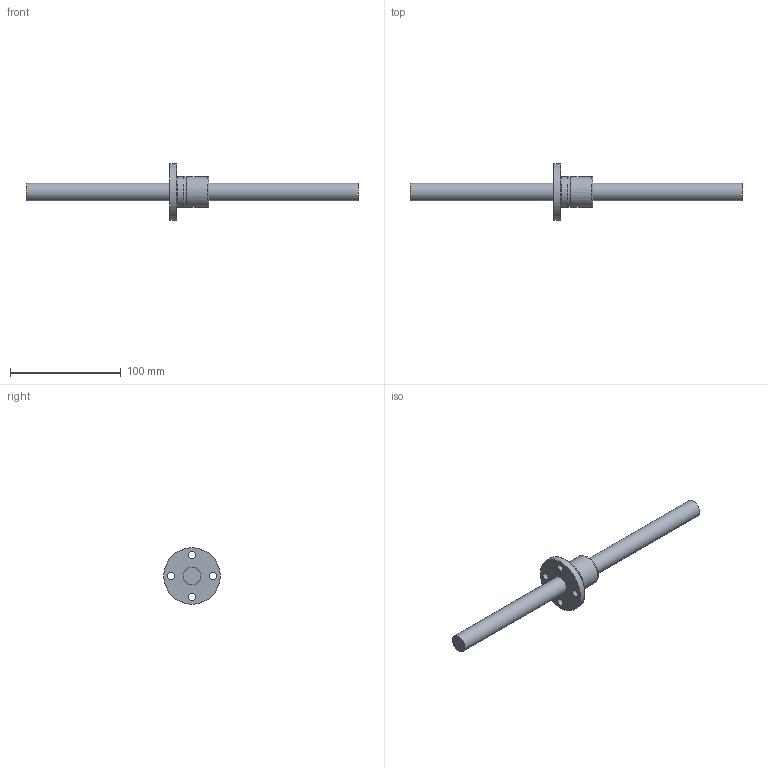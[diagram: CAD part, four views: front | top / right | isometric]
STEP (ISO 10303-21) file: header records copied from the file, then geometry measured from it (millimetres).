
FILE_DESCRIPTION((''),'2;1');
FILE_NAME('D:\製品 (図面)\カタログ用3D\ネジ関連\STEP形式\TMF-OH\TMF16-OH.stp','2010-06-02T15:13:23',('Tsuchiya'),(''),'Autodesk Inventor 10','Autodesk Inventor 10','');
FILE_SCHEMA(('AUTOMOTIVE_DESIGN { 1 0 10303 214 1 1 1 1 }'));
Length unit declared in the file: millimetre
Products named in the file (3): TMF16-OH; TMF16-OH1; TMF16-OH2
Assembly tree (2 placements, depth 2):
  TMF16-OH
    TMF16-OH1
    TMF16-OH2
Bounding box: 300 x 51 x 51 mm (x, y, z)
Volume: 82475.8 mm3; surface area: 24643.7 mm2
Topology: 2 solids, 2 shells, 18 faces, 40 edges, 27 vertices
Faces by surface type: cylinder 10, plane 5, bspline 2, torus 1
Full cylindrical faces by diameter (mm): 1.5 x1, 6.6 x4, 16 x2, 28 x2, 51 x1
Entity records: 708 total; most frequent: CARTESIAN_POINT 285, DIRECTION 82, ORIENTED_EDGE 44, EDGE_LOOP 44, AXIS2_PLACEMENT_3D 41, FACE_BOUND 26, VERTEX_POINT 22, EDGE_CURVE 22
